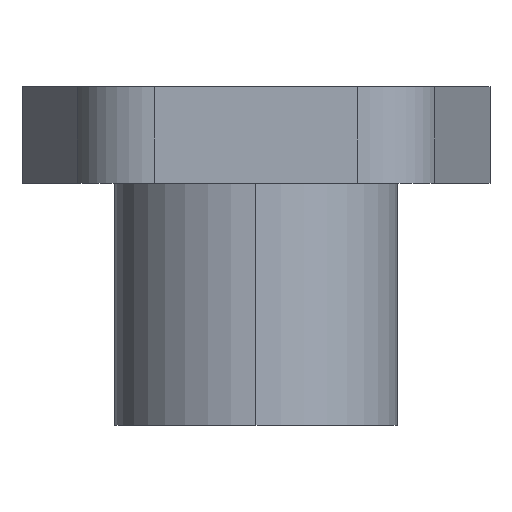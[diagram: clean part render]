
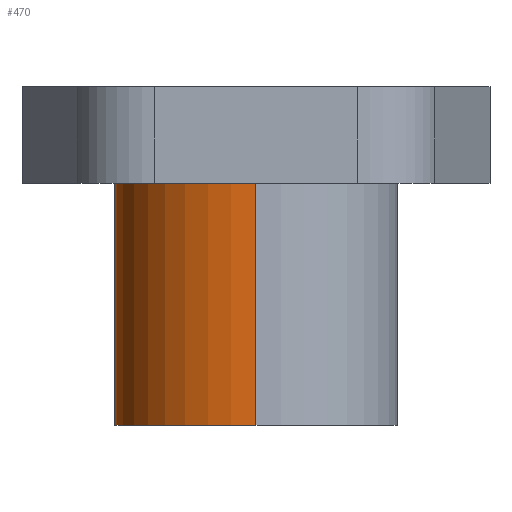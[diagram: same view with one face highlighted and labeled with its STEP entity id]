
A CAD part, left-side view. The second image highlights one B-rep face of the part: STEP entity #470.
In plain terms, the highlighted cylindrical face has radius 17.5 mm (diameter 35 mm), a partial arc.
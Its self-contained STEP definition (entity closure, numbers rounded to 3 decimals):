
#61 = VECTOR ( 'NONE', #1018, 1000. ) ;
#65 = VERTEX_POINT ( 'NONE', #812 ) ;
#107 = DIRECTION ( 'NONE',  ( 1., 0., 0. ) ) ;
#113 = CIRCLE ( 'NONE', #859, 17.5 ) ;
#134 = VERTEX_POINT ( 'NONE', #580 ) ;
#153 = DIRECTION ( 'NONE',  ( 1., 0., 0. ) ) ;
#315 = DIRECTION ( 'NONE',  ( 0., 0., 1. ) ) ;
#345 = CARTESIAN_POINT ( 'NONE',  ( 0., 0., -30. ) ) ;
#424 = CARTESIAN_POINT ( 'NONE',  ( -17.5, 0., -30. ) ) ;
#441 = DIRECTION ( 'NONE',  ( 1., 0., 0. ) ) ;
#453 = CYLINDRICAL_SURFACE ( 'NONE', #720, 17.5 ) ;
#470 = ADVANCED_FACE ( 'NONE', ( #878 ), #453, .T. ) ;
#515 = VERTEX_POINT ( 'NONE', #939 ) ;
#579 = CIRCLE ( 'NONE', #949, 17.5 ) ;
#580 = CARTESIAN_POINT ( 'NONE',  ( -17.5, 0., 0. ) ) ;
#584 = EDGE_CURVE ( 'NONE', #1073, #134, #1125, .T. ) ;
#592 = CARTESIAN_POINT ( 'NONE',  ( 17.5, 0., -30. ) ) ;
#623 = CARTESIAN_POINT ( 'NONE',  ( 0., 0., -30. ) ) ;
#653 = CARTESIAN_POINT ( 'NONE',  ( -17.5, 0., -30. ) ) ;
#657 = VECTOR ( 'NONE', #315, 1000. ) ;
#659 = ORIENTED_EDGE ( 'NONE', *, *, #584, .T. ) ;
#676 = LINE ( 'NONE', #592, #61 ) ;
#699 = EDGE_CURVE ( 'NONE', #65, #1073, #579, .T. ) ;
#720 = AXIS2_PLACEMENT_3D ( 'NONE', #623, #804, #441 ) ;
#723 = CARTESIAN_POINT ( 'NONE',  ( 0., 0., 0. ) ) ;
#778 = ORIENTED_EDGE ( 'NONE', *, *, #797, .F. ) ;
#797 = EDGE_CURVE ( 'NONE', #515, #134, #113, .T. ) ;
#804 = DIRECTION ( 'NONE',  ( 0., 0., 1. ) ) ;
#812 = CARTESIAN_POINT ( 'NONE',  ( 17.5, 0., -30. ) ) ;
#814 = DIRECTION ( 'NONE',  ( 0., 0., 1. ) ) ;
#859 = AXIS2_PLACEMENT_3D ( 'NONE', #723, #814, #107 ) ;
#878 = FACE_OUTER_BOUND ( 'NONE', #885, .T. ) ;
#885 = EDGE_LOOP ( 'NONE', ( #988, #659, #778, #958 ) ) ;
#939 = CARTESIAN_POINT ( 'NONE',  ( 17.5, 0., 0. ) ) ;
#949 = AXIS2_PLACEMENT_3D ( 'NONE', #345, #979, #153 ) ;
#958 = ORIENTED_EDGE ( 'NONE', *, *, #1010, .F. ) ;
#979 = DIRECTION ( 'NONE',  ( 0., 0., 1. ) ) ;
#988 = ORIENTED_EDGE ( 'NONE', *, *, #699, .T. ) ;
#1010 = EDGE_CURVE ( 'NONE', #65, #515, #676, .T. ) ;
#1018 = DIRECTION ( 'NONE',  ( 0., 0., 1. ) ) ;
#1073 = VERTEX_POINT ( 'NONE', #424 ) ;
#1125 = LINE ( 'NONE', #653, #657 ) ;
